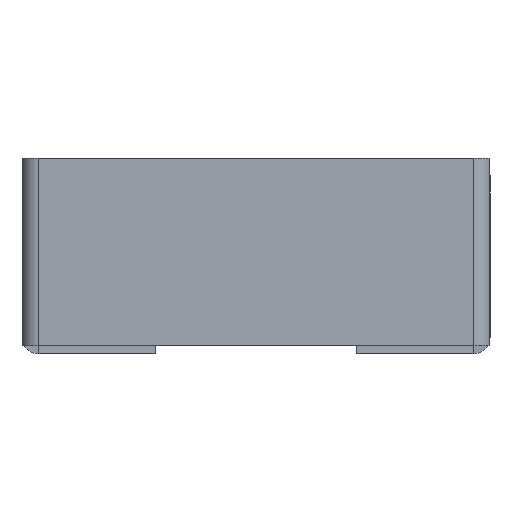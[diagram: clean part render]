
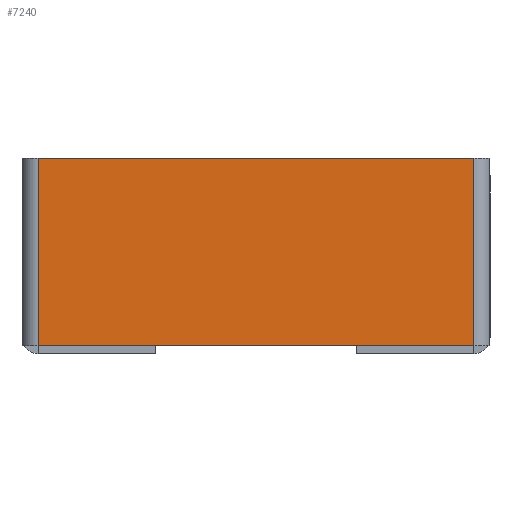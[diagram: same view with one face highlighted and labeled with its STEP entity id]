
A CAD part, front view. The second image highlights one B-rep face of the part: STEP entity #7240.
In plain terms, the highlighted planar face has unit normal (0, -1, 0).
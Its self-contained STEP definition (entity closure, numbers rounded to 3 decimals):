
#125 = DIRECTION ( 'NONE',  ( 0., 0., -1. ) ) ;
#556 = VERTEX_POINT ( 'NONE', #7485 ) ;
#629 = DIRECTION ( 'NONE',  ( 0., 0., 1. ) ) ;
#923 = VECTOR ( 'NONE', #9988, 1000. ) ;
#946 = EDGE_CURVE ( 'NONE', #8588, #556, #1177, .T. ) ;
#950 = ORIENTED_EDGE ( 'NONE', *, *, #8585, .T. ) ;
#1177 = LINE ( 'NONE', #2460, #923 ) ;
#1450 = VERTEX_POINT ( 'NONE', #7085 ) ;
#1508 = FACE_OUTER_BOUND ( 'NONE', #6047, .T. ) ;
#1714 = CARTESIAN_POINT ( 'NONE',  ( -67.5, -2.5, 0. ) ) ;
#2009 = VERTEX_POINT ( 'NONE', #10859 ) ;
#2460 = CARTESIAN_POINT ( 'NONE',  ( -70., -2.5, 0. ) ) ;
#2926 = LINE ( 'NONE', #4761, #3319 ) ;
#3195 = VECTOR ( 'NONE', #5814, 1000. ) ;
#3319 = VECTOR ( 'NONE', #629, 1000. ) ;
#3741 = ORIENTED_EDGE ( 'NONE', *, *, #3965, .F. ) ;
#3774 = AXIS2_PLACEMENT_3D ( 'NONE', #5529, #10495, #8796 ) ;
#3965 = EDGE_CURVE ( 'NONE', #1450, #2009, #9052, .T. ) ;
#4127 = CARTESIAN_POINT ( 'NONE',  ( -70., -2.5, -58. ) ) ;
#4761 = CARTESIAN_POINT ( 'NONE',  ( 67.5, -2.5, -58. ) ) ;
#4831 = CARTESIAN_POINT ( 'NONE',  ( -67.5, -2.5, 0. ) ) ;
#5039 = ORIENTED_EDGE ( 'NONE', *, *, #946, .F. ) ;
#5529 = CARTESIAN_POINT ( 'NONE',  ( 0., -2.5, 0. ) ) ;
#5814 = DIRECTION ( 'NONE',  ( -1., 0., 0. ) ) ;
#6047 = EDGE_LOOP ( 'NONE', ( #10244, #3741, #950, #5039 ) ) ;
#6890 = VECTOR ( 'NONE', #125, 1000. ) ;
#7085 = CARTESIAN_POINT ( 'NONE',  ( 67.5, -2.5, -58. ) ) ;
#7240 = ADVANCED_FACE ( 'NONE', ( #1508 ), #9642, .F. ) ;
#7253 = EDGE_CURVE ( 'NONE', #8588, #2009, #7546, .T. ) ;
#7485 = CARTESIAN_POINT ( 'NONE',  ( 67.5, -2.5, 0. ) ) ;
#7546 = LINE ( 'NONE', #1714, #6890 ) ;
#8585 = EDGE_CURVE ( 'NONE', #1450, #556, #2926, .T. ) ;
#8588 = VERTEX_POINT ( 'NONE', #4831 ) ;
#8796 = DIRECTION ( 'NONE',  ( 0., 0., 1. ) ) ;
#9052 = LINE ( 'NONE', #4127, #3195 ) ;
#9642 = PLANE ( 'NONE',  #3774 ) ;
#9988 = DIRECTION ( 'NONE',  ( 1., 0., 0. ) ) ;
#10244 = ORIENTED_EDGE ( 'NONE', *, *, #7253, .T. ) ;
#10495 = DIRECTION ( 'NONE',  ( 0., 1., 0. ) ) ;
#10859 = CARTESIAN_POINT ( 'NONE',  ( -67.5, -2.5, -58. ) ) ;
